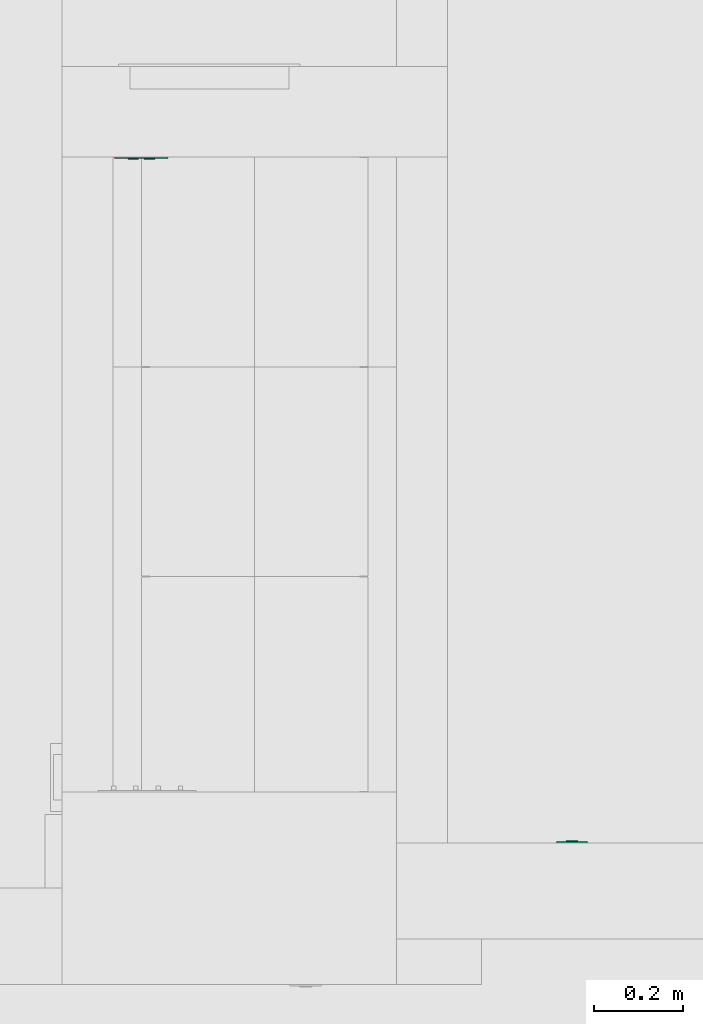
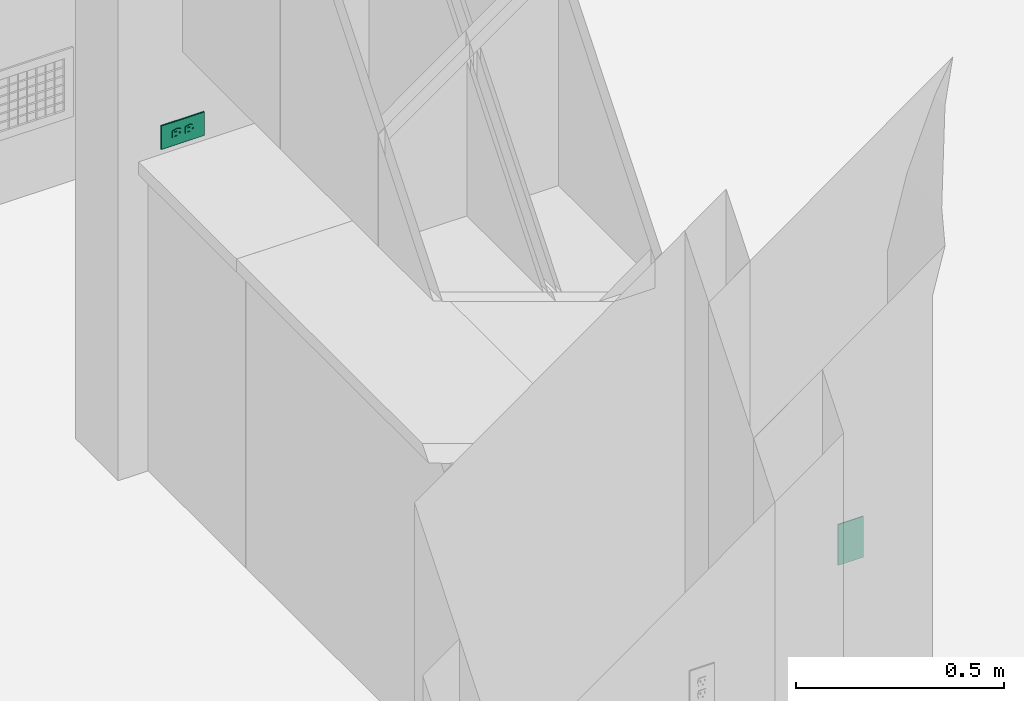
# One storey, part 18 of 103: 2 flow controllers.
"""IFC2X3 building model written with IfcOpenShell, lengths in inches."""

from ifc_helpers import new_model, entity, si_unit, converted_unit, derived_unit, money_unit, direction, frame, origin_with_axes, place, context, subcontext, project, spatial, faceted_brep, source, transform, mapped, type_object, element, save


model = new_model("IFC2X3")

# Units and contexts
model_context = context("Model", 3, precision=0.00039370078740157, world=origin_with_axes(), true_north=direction((0.0, 1.0)))
plan_context = context("Plan", 3, precision=0.00039370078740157, world=origin_with_axes(), true_north=direction((0.0, 1.0)))
body_context = subcontext(model_context, "Body", "Model", "MODEL_VIEW")
ifc_project = project(units=[converted_unit("LENGTHUNIT", "INCH", entity("IfcPositiveLengthMeasure", 0.0254), si_unit("LENGTHUNIT", "METRE"), dimensions=[1, 0, 0, 0, 0, 0, 0]), converted_unit("AREAUNIT", "SQUARE_FOOT", entity("IfcPositiveLengthMeasure", 0.09290304), si_unit("AREAUNIT", "SQUARE_METRE"), dimensions=[2, 0, 0, 0, 0, 0, 0]), si_unit("PLANEANGLEUNIT", "RADIAN"), si_unit("SOLIDANGLEUNIT", "STERADIAN"), money_unit("USD"), converted_unit("TIMEUNIT", "Year", entity("IfcTimeMeasure", 31557600.0), si_unit("TIMEUNIT", "SECOND"), dimensions=[0, 0, 1, 0, 0, 0, 0]), si_unit("MASSUNIT", "GRAM", prefix="KILO"), si_unit("THERMODYNAMICTEMPERATUREUNIT", "DEGREE_CELSIUS"), si_unit("LUMINOUSINTENSITYUNIT", "LUMEN"), si_unit("ENERGYUNIT", "JOULE", prefix="MEGA"), derived_unit("SPECIFICHEATCAPACITYUNIT", [(si_unit("ENERGYUNIT", "JOULE"), 1), (si_unit("MASSUNIT", "GRAM", prefix="KILO"), -1), (si_unit("THERMODYNAMICTEMPERATUREUNIT", "KELVIN"), -1)])], contexts=[model_context, plan_context])

# Site, building, storey
site_placement = place(None, origin_with_axes())
site = spatial("IfcSite", under=ifc_project, at=site_placement, Name="Site", CompositionType="ELEMENT")
building_placement = place(site_placement, origin_with_axes())
building = spatial("IfcBuilding", under=site, at=building_placement, Name="Building", CompositionType="ELEMENT")
storey_placement = place(building_placement, frame((0.0, 0.0, 127.9999999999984), z_axis=(0.0, 0.0, 1.0), x_axis=(1.0, 0.0, 0.0)))
storey = spatial("IfcBuildingStorey", under=building, at=storey_placement, Name="Second Floor", CompositionType="ELEMENT", Elevation=128.0)

# Flow controllers
switching_device_type = type_object("IfcSwitchingDeviceType", Name="Outlet 1 US", PredefinedType="NOTDEFINED")
shared_shape_1 = source(origin_with_axes(), body_context, "Body", "Brep", [
    faceted_brep([(0.39370078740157, -0.03444881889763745, -1.18110236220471), (0.5436477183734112, -0.03444881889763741, -0.7086614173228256), (0.5436477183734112, -0.2165354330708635, -0.7086614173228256), (0.39370078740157, -0.2165354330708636, -1.18110236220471), (-0.3937007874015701, -0.03444881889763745, -1.181102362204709), (-0.543647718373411, -0.03444881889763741, -0.7086614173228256), (-0.39370078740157, -0.03444881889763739, -0.2362204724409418), (0.3937007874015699, -0.03444881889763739, -0.2362204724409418), (-0.196850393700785, -0.03444881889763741, -0.7086614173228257), (-0.196850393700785, -0.0344488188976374, -0.4724409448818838), (-0.275590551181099, -0.0344488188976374, -0.4724409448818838), (-0.275590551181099, -0.03444881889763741, -0.7086614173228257), (0.196850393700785, -0.03444881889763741, -0.7086614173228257), (0.275590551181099, -0.03444881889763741, -0.7086614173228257), (0.275590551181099, -0.0344488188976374, -0.4724409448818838), (0.196850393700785, -0.0344488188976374, -0.4724409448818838), (-0.078740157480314, -0.03444881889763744, -1.102362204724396), (0.078740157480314, -0.03444881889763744, -1.102362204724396), (0.078740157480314, -0.03444881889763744, -1.023622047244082), (0.06819097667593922, -0.03444881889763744, -0.9842519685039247), (0.03937007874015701, -0.03444881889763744, -0.9554310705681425), (0.0, -0.03444881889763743, -0.9448818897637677), (-0.03937007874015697, -0.03444881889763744, -0.9554310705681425), (-0.06819097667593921, -0.03444881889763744, -0.9842519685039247), (-0.078740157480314, -0.03444881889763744, -1.023622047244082), (0.3937007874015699, -0.2165354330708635, -0.2362204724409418), (-0.39370078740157, -0.2165354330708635, -0.2362204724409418), (-0.543647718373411, -0.2165354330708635, -0.7086614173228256), (-0.3937007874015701, -0.2165354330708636, -1.181102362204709), (-0.196850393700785, -0.2165354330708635, -0.7086614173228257), (-0.275590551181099, -0.2165354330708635, -0.7086614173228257), (-0.275590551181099, -0.2165354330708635, -0.4724409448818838), (-0.196850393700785, -0.2165354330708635, -0.4724409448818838), (0.196850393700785, -0.2165354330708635, -0.7086614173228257), (0.196850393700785, -0.2165354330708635, -0.4724409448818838), (0.275590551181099, -0.2165354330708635, -0.4724409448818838), (0.275590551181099, -0.2165354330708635, -0.7086614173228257), (-0.078740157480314, -0.2165354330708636, -1.102362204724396), (-0.078740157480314, -0.2165354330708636, -1.023622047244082), (-0.06819097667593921, -0.2165354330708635, -0.9842519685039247), (-0.03937007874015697, -0.2165354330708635, -0.9554310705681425), (0.0, -0.2165354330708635, -0.9448818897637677), (0.03937007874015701, -0.2165354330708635, -0.9554310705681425), (0.06819097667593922, -0.2165354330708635, -0.9842519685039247), (0.078740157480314, -0.2165354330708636, -1.023622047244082), (0.078740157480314, -0.2165354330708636, -1.102362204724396)], [[[0, 1, 2, 3]], [[0, 4, 5, 6, 7, 1], [8, 9, 10, 11], [12, 13, 14, 15], [16, 17, 18, 19, 20, 21, 22, 23, 24]], [[1, 7, 25, 2]], [[3, 2, 25, 26, 27, 28], [29, 30, 31, 32], [33, 34, 35, 36], [37, 38, 39, 40, 41, 42, 43, 44, 45]], [[4, 0, 3, 28]], [[5, 4, 28, 27]], [[6, 5, 27, 26]], [[7, 6, 26, 25]], [[9, 8, 29, 32]], [[10, 9, 32, 31]], [[11, 10, 31, 30]], [[8, 11, 30, 29]], [[13, 12, 33, 36]], [[14, 13, 36, 35]], [[15, 14, 35, 34]], [[12, 15, 34, 33]], [[17, 16, 37, 45]], [[18, 17, 45, 44]], [[19, 18, 44, 43]], [[20, 19, 43, 42]], [[21, 20, 42, 41]], [[22, 21, 41, 40]], [[23, 22, 40, 39]], [[24, 23, 39, 38]], [[16, 24, 38, 37]]]),
    faceted_brep([(0.39370078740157, -0.03444881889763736, 0.2362204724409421), (0.5436477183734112, -0.03444881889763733, 0.7086614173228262), (0.5436477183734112, -0.2165354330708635, 0.7086614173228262), (0.39370078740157, -0.2165354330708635, 0.2362204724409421), (-0.3937007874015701, -0.03444881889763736, 0.2362204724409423), (-0.543647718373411, -0.03444881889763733, 0.7086614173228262), (-0.39370078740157, -0.0344488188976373, 1.18110236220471), (0.3937007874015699, -0.0344488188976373, 1.18110236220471), (-0.196850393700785, -0.03444881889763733, 0.7086614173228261), (-0.196850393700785, -0.03444881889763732, 0.944881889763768), (-0.275590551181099, -0.03444881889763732, 0.944881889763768), (-0.275590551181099, -0.03444881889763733, 0.7086614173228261), (0.196850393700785, -0.03444881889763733, 0.7086614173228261), (0.275590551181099, -0.03444881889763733, 0.7086614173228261), (0.275590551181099, -0.03444881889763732, 0.944881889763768), (0.196850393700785, -0.03444881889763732, 0.944881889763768), (-0.078740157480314, -0.03444881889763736, 0.3149606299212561), (0.078740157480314, -0.03444881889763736, 0.3149606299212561), (0.078740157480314, -0.03444881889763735, 0.3937007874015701), (0.06819097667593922, -0.03444881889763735, 0.4330708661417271), (0.03937007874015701, -0.03444881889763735, 0.4618917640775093), (0.0, -0.03444881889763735, 0.472440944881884), (-0.03937007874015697, -0.03444881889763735, 0.4618917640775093), (-0.06819097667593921, -0.03444881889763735, 0.4330708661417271), (-0.078740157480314, -0.03444881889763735, 0.3937007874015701), (0.3937007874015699, -0.2165354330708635, 1.18110236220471), (-0.39370078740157, -0.2165354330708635, 1.18110236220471), (-0.543647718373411, -0.2165354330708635, 0.7086614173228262), (-0.3937007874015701, -0.2165354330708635, 0.2362204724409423), (-0.196850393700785, -0.2165354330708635, 0.7086614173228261), (-0.275590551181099, -0.2165354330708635, 0.7086614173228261), (-0.275590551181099, -0.2165354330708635, 0.944881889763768), (-0.196850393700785, -0.2165354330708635, 0.944881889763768), (0.196850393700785, -0.2165354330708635, 0.7086614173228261), (0.196850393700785, -0.2165354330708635, 0.944881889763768), (0.275590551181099, -0.2165354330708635, 0.944881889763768), (0.275590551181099, -0.2165354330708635, 0.7086614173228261), (-0.078740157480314, -0.2165354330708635, 0.3149606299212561), (-0.078740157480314, -0.2165354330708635, 0.3937007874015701), (-0.06819097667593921, -0.2165354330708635, 0.4330708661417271), (-0.03937007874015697, -0.2165354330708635, 0.4618917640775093), (0.0, -0.2165354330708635, 0.472440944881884), (0.03937007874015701, -0.2165354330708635, 0.4618917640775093), (0.06819097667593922, -0.2165354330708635, 0.4330708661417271), (0.078740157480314, -0.2165354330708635, 0.3937007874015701), (0.078740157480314, -0.2165354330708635, 0.3149606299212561)], [[[0, 1, 2, 3]], [[0, 4, 5, 6, 7, 1], [8, 9, 10, 11], [12, 13, 14, 15], [16, 17, 18, 19, 20, 21, 22, 23, 24]], [[1, 7, 25, 2]], [[3, 2, 25, 26, 27, 28], [29, 30, 31, 32], [33, 34, 35, 36], [37, 38, 39, 40, 41, 42, 43, 44, 45]], [[4, 0, 3, 28]], [[5, 4, 28, 27]], [[6, 5, 27, 26]], [[7, 6, 26, 25]], [[9, 8, 29, 32]], [[10, 9, 32, 31]], [[11, 10, 31, 30]], [[8, 11, 30, 29]], [[13, 12, 33, 36]], [[14, 13, 36, 35]], [[15, 14, 35, 34]], [[12, 15, 34, 33]], [[17, 16, 37, 45]], [[18, 17, 45, 44]], [[19, 18, 44, 43]], [[20, 19, 43, 42]], [[21, 20, 42, 41]], [[22, 21, 41, 40]], [[23, 22, 40, 39]], [[24, 23, 39, 38]], [[16, 24, 38, 37]]]),
    faceted_brep([(-1.343503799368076, -0.1377952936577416, -2.327755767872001), (1.343503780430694, -0.1377952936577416, -2.327755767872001), (1.343503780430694, -0.1377952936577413, 2.327755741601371), (-1.343503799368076, -0.1377952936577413, 2.327755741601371), (0.39370078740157, -0.1377952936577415, -1.18110236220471), (-0.3937007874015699, -0.1377952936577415, -1.181102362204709), (-0.5436477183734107, -0.1377952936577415, -0.7086614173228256), (-0.39370078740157, -0.1377952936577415, -0.2362204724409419), (0.3937007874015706, -0.1377952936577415, -0.2362204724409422), (0.5436477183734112, -0.1377952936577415, -0.7086614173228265), (-0.39370078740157, -0.1377952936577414, 1.18110236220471), (0.3937007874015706, -0.1377952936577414, 1.18110236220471), (0.5436477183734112, -0.1377952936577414, 0.7086614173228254), (0.39370078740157, -0.1377952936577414, 0.236220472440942), (-0.3937007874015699, -0.1377952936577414, 0.2362204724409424), (-0.5436477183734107, -0.1377952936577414, 0.7086614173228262), (-1.352419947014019, -0.1366214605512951, -2.336671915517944), (1.352419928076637, -0.1366214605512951, -2.336671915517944), (1.352419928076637, -0.1366214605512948, 2.336671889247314), (-1.352419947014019, -0.1366214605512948, 2.336671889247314), (0.39370078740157, -0.03444881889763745, -1.18110236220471), (-0.3937007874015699, -0.03444881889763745, -1.181102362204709), (-0.5436477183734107, -0.03444881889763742, -0.7086614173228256), (-0.39370078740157, -0.03444881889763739, -0.2362204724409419), (0.3937007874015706, -0.03444881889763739, -0.2362204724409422), (0.5436477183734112, -0.03444881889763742, -0.7086614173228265), (-0.39370078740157, -0.0344488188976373, 1.18110236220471), (0.3937007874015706, -0.0344488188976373, 1.18110236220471), (0.5436477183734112, -0.03444881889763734, 0.7086614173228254), (0.39370078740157, -0.03444881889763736, 0.236220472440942), (-0.3937007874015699, -0.03444881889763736, 0.2362204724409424), (-0.5436477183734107, -0.03444881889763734, 0.7086614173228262), (-1.36786294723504, -0.1277054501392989, -2.352114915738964), (1.367862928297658, -0.1277054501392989, -2.352114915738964), (1.367862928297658, -0.1277054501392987, 2.352114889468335), (-1.36786294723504, -0.1277054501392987, 2.352114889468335), (-1.376778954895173, -0.1122624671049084, -2.361030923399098), (1.376778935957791, -0.1122624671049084, -2.361030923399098), (1.376778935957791, -0.1122624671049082, 2.361030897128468), (-1.376778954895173, -0.1122624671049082, 2.361030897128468), (-1.377952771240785, -0.1033464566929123, -2.362204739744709), (1.377952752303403, -0.1033464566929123, -2.362204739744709), (1.377952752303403, -0.103346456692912, 2.36220471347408), (-1.377952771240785, -0.103346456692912, 2.36220471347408), (-1.377952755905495, 0.0, -2.36220472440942), (1.377952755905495, 0.0, -2.36220472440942), (1.377952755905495, 0.0, 2.36220472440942), (-1.377952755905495, 0.0, 2.36220472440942)], [[[0, 1, 2, 3], [4, 5, 6, 7, 8, 9], [10, 11, 12, 13, 14, 15]], [[1, 0, 16, 17]], [[2, 1, 17, 18]], [[3, 2, 18, 19]], [[0, 3, 19, 16]], [[4, 20, 21, 5]], [[5, 21, 22, 6]], [[6, 22, 23, 7]], [[7, 23, 24, 8]], [[8, 24, 25, 9]], [[9, 25, 20, 4]], [[11, 10, 26, 27]], [[12, 11, 27, 28]], [[13, 12, 28, 29]], [[14, 13, 29, 30]], [[15, 14, 30, 31]], [[10, 15, 31, 26]], [[17, 16, 32, 33]], [[18, 17, 33, 34]], [[19, 18, 34, 35]], [[16, 19, 35, 32]], [[22, 21, 20, 25, 24, 23]], [[28, 27, 26, 31, 30, 29]], [[33, 32, 36, 37]], [[34, 33, 37, 38]], [[35, 34, 38, 39]], [[32, 35, 39, 36]], [[37, 36, 40, 41]], [[38, 37, 41, 42]], [[39, 38, 42, 43]], [[36, 39, 43, 40]], [[41, 40, 44, 45]], [[42, 41, 45, 46]], [[43, 42, 46, 47]], [[40, 43, 47, 44]], [[46, 45, 44, 47]]]),
])
flow_controller_1_placement = place(storey_placement, frame((254.4999999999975, 200.9999999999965, 13.99999999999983), z_axis=(0.0, 0.0, 1.0), x_axis=(-1.0, 0.0, 0.0)))
element("IfcFlowController", 1, at=flow_controller_1_placement, inside=storey, type_object=switching_device_type, Name="FU - 029", context=body_context, shape_type="MappedRepresentation", body=[
    mapped(shared_shape_1, transform((0.0, 0.0, 0.0))),
])
shared_shape_2 = source(origin_with_axes(), body_context, "Body", "Brep", [
    faceted_brep([(1.18110236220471, -0.03444881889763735, 0.3937007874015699), (0.708661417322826, -0.03444881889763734, 0.5436477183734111), (0.708661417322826, -0.2165354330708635, 0.5436477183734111), (1.18110236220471, -0.2165354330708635, 0.3937007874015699), (1.18110236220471, -0.0344488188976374, -0.3937007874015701), (0.708661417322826, -0.03444881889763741, -0.543647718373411), (0.2362204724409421, -0.0344488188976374, -0.3937007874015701), (0.2362204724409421, -0.03444881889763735, 0.3937007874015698), (0.7086614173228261, -0.03444881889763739, -0.196850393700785), (0.472440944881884, -0.03444881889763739, -0.196850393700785), (0.472440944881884, -0.03444881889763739, -0.275590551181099), (0.7086614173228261, -0.03444881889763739, -0.275590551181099), (0.7086614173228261, -0.03444881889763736, 0.196850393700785), (0.7086614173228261, -0.03444881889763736, 0.275590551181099), (0.472440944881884, -0.03444881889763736, 0.275590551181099), (0.472440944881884, -0.03444881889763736, 0.196850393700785), (1.102362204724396, -0.03444881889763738, -0.07874015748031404), (1.102362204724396, -0.03444881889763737, 0.07874015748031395), (1.023622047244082, -0.03444881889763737, 0.07874015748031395), (0.984251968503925, -0.03444881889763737, 0.06819097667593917), (0.9554310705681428, -0.03444881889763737, 0.03937007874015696), (0.944881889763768, -0.03444881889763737, 0.0), (0.9554310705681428, -0.03444881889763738, -0.03937007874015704), (0.984251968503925, -0.03444881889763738, -0.06819097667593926), (1.023622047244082, -0.03444881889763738, -0.07874015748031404), (0.2362204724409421, -0.2165354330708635, 0.3937007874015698), (0.2362204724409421, -0.2165354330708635, -0.3937007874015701), (0.708661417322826, -0.2165354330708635, -0.543647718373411), (1.18110236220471, -0.2165354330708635, -0.3937007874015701), (0.7086614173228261, -0.2165354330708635, -0.196850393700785), (0.7086614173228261, -0.2165354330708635, -0.275590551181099), (0.472440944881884, -0.2165354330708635, -0.275590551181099), (0.472440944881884, -0.2165354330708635, -0.196850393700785), (0.7086614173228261, -0.2165354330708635, 0.196850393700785), (0.472440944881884, -0.2165354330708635, 0.196850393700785), (0.472440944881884, -0.2165354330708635, 0.275590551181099), (0.7086614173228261, -0.2165354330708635, 0.275590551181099), (1.102362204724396, -0.2165354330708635, -0.07874015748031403), (1.023622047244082, -0.2165354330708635, -0.07874015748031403), (0.984251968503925, -0.2165354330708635, -0.06819097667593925), (0.9554310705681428, -0.2165354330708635, -0.03937007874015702), (0.944881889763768, -0.2165354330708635, 0.0), (0.9554310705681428, -0.2165354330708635, 0.03937007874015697), (0.984251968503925, -0.2165354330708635, 0.06819097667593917), (1.023622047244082, -0.2165354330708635, 0.07874015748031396), (1.102362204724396, -0.2165354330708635, 0.07874015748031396)], [[[0, 1, 2, 3]], [[0, 4, 5, 6, 7, 1], [8, 9, 10, 11], [12, 13, 14, 15], [16, 17, 18, 19, 20, 21, 22, 23, 24]], [[1, 7, 25, 2]], [[3, 2, 25, 26, 27, 28], [29, 30, 31, 32], [33, 34, 35, 36], [37, 38, 39, 40, 41, 42, 43, 44, 45]], [[4, 0, 3, 28]], [[5, 4, 28, 27]], [[6, 5, 27, 26]], [[7, 6, 26, 25]], [[9, 8, 29, 32]], [[10, 9, 32, 31]], [[11, 10, 31, 30]], [[8, 11, 30, 29]], [[13, 12, 33, 36]], [[14, 13, 36, 35]], [[15, 14, 35, 34]], [[12, 15, 34, 33]], [[17, 16, 37, 45]], [[18, 17, 45, 44]], [[19, 18, 44, 43]], [[20, 19, 43, 42]], [[21, 20, 42, 41]], [[22, 21, 41, 40]], [[23, 22, 40, 39]], [[24, 23, 39, 38]], [[16, 24, 38, 37]]]),
    faceted_brep([(-0.2362204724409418, -0.03444881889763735, 0.3937007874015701), (-0.708661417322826, -0.03444881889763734, 0.5436477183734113), (-0.708661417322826, -0.2165354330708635, 0.5436477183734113), (-0.2362204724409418, -0.2165354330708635, 0.3937007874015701), (-0.2362204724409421, -0.0344488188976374, -0.39370078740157), (-0.708661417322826, -0.03444881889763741, -0.5436477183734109), (-1.18110236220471, -0.0344488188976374, -0.3937007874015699), (-1.18110236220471, -0.03444881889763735, 0.39370078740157), (-0.7086614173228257, -0.03444881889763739, -0.196850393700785), (-0.9448818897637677, -0.03444881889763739, -0.196850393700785), (-0.9448818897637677, -0.03444881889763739, -0.275590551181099), (-0.7086614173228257, -0.03444881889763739, -0.275590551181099), (-0.7086614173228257, -0.03444881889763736, 0.196850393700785), (-0.7086614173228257, -0.03444881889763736, 0.275590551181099), (-0.9448818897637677, -0.03444881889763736, 0.275590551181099), (-0.9448818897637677, -0.03444881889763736, 0.196850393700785), (-0.3149606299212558, -0.03444881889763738, -0.07874015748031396), (-0.3149606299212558, -0.03444881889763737, 0.07874015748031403), (-0.3937007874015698, -0.03444881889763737, 0.07874015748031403), (-0.4330708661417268, -0.03444881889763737, 0.06819097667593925), (-0.461891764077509, -0.03444881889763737, 0.03937007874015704), (-0.4724409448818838, -0.03444881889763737, 0.0), (-0.461891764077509, -0.03444881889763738, -0.03937007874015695), (-0.4330708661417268, -0.03444881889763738, -0.06819097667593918), (-0.3937007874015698, -0.03444881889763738, -0.07874015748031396), (-1.18110236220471, -0.2165354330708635, 0.39370078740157), (-1.18110236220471, -0.2165354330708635, -0.3937007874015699), (-0.708661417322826, -0.2165354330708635, -0.5436477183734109), (-0.2362204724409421, -0.2165354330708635, -0.39370078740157), (-0.7086614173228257, -0.2165354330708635, -0.196850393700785), (-0.7086614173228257, -0.2165354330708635, -0.275590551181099), (-0.9448818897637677, -0.2165354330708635, -0.275590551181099), (-0.9448818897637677, -0.2165354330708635, -0.196850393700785), (-0.7086614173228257, -0.2165354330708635, 0.196850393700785), (-0.9448818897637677, -0.2165354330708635, 0.196850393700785), (-0.9448818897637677, -0.2165354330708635, 0.275590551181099), (-0.7086614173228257, -0.2165354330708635, 0.275590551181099), (-0.3149606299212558, -0.2165354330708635, -0.07874015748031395), (-0.3937007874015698, -0.2165354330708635, -0.07874015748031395), (-0.4330708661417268, -0.2165354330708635, -0.06819097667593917), (-0.461891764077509, -0.2165354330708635, -0.03937007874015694), (-0.4724409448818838, -0.2165354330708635, 0.0), (-0.461891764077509, -0.2165354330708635, 0.03937007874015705), (-0.4330708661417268, -0.2165354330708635, 0.06819097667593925), (-0.3937007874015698, -0.2165354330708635, 0.07874015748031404), (-0.3149606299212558, -0.2165354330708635, 0.07874015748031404)], [[[0, 1, 2, 3]], [[0, 4, 5, 6, 7, 1], [8, 9, 10, 11], [12, 13, 14, 15], [16, 17, 18, 19, 20, 21, 22, 23, 24]], [[1, 7, 25, 2]], [[3, 2, 25, 26, 27, 28], [29, 30, 31, 32], [33, 34, 35, 36], [37, 38, 39, 40, 41, 42, 43, 44, 45]], [[4, 0, 3, 28]], [[5, 4, 28, 27]], [[6, 5, 27, 26]], [[7, 6, 26, 25]], [[9, 8, 29, 32]], [[10, 9, 32, 31]], [[11, 10, 31, 30]], [[8, 11, 30, 29]], [[13, 12, 33, 36]], [[14, 13, 36, 35]], [[15, 14, 35, 34]], [[12, 15, 34, 33]], [[17, 16, 37, 45]], [[18, 17, 45, 44]], [[19, 18, 44, 43]], [[20, 19, 43, 42]], [[21, 20, 42, 41]], [[22, 21, 41, 40]], [[23, 22, 40, 39]], [[24, 23, 39, 38]], [[16, 24, 38, 37]]]),
    faceted_brep([(2.327755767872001, -0.1377952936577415, -1.343503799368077), (2.327755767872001, -0.1377952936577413, 1.343503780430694), (-2.32775574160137, -0.1377952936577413, 1.343503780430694), (-2.32775574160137, -0.1377952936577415, -1.343503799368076), (1.18110236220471, -0.1377952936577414, -0.39370078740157), (0.708661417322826, -0.1377952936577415, -0.5436477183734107), (0.2362204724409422, -0.1377952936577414, -0.39370078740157), (0.2362204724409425, -0.1377952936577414, 0.3937007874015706), (0.7086614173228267, -0.1377952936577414, 0.5436477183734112), (1.18110236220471, -0.1377952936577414, 0.3937007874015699), (-1.181102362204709, -0.1377952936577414, 0.3937007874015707), (-0.7086614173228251, -0.1377952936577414, 0.5436477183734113), (-0.2362204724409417, -0.1377952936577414, 0.39370078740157), (-0.2362204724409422, -0.1377952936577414, -0.3937007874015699), (-0.708661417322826, -0.1377952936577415, -0.5436477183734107), (-1.18110236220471, -0.1377952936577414, -0.3937007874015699), (2.336671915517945, -0.1366214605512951, -1.352419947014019), (2.336671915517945, -0.1366214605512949, 1.352419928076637), (-2.336671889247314, -0.1366214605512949, 1.352419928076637), (-2.336671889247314, -0.1366214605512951, -1.352419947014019), (1.18110236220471, -0.0344488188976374, -0.39370078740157), (0.708661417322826, -0.0344488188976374, -0.5436477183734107), (0.2362204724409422, -0.0344488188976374, -0.39370078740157), (0.2362204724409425, -0.03444881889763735, 0.3937007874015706), (0.7086614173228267, -0.03444881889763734, 0.5436477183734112), (1.18110236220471, -0.03444881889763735, 0.3937007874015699), (-1.181102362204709, -0.03444881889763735, 0.3937007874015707), (-0.7086614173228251, -0.03444881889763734, 0.5436477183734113), (-0.2362204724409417, -0.03444881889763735, 0.39370078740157), (-0.2362204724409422, -0.0344488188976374, -0.3937007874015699), (-0.708661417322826, -0.0344488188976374, -0.5436477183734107), (-1.18110236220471, -0.0344488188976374, -0.3937007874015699), (2.352114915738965, -0.1277054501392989, -1.36786294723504), (2.352114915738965, -0.1277054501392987, 1.367862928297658), (-2.352114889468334, -0.1277054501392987, 1.367862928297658), (-2.352114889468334, -0.1277054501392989, -1.367862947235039), (2.361030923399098, -0.1122624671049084, -1.376778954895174), (2.361030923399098, -0.1122624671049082, 1.376778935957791), (-2.361030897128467, -0.1122624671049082, 1.376778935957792), (-2.361030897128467, -0.1122624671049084, -1.376778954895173), (2.36220473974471, -0.1033464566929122, -1.377952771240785), (2.36220473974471, -0.103346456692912, 1.377952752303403), (-2.362204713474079, -0.103346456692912, 1.377952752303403), (-2.362204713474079, -0.1033464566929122, -1.377952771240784), (2.36220472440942, 0.0, -1.377952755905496), (2.36220472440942, 0.0, 1.377952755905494), (-2.36220472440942, 0.0, 1.377952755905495), (-2.36220472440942, 0.0, -1.377952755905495)], [[[0, 1, 2, 3], [4, 5, 6, 7, 8, 9], [10, 11, 12, 13, 14, 15]], [[1, 0, 16, 17]], [[2, 1, 17, 18]], [[3, 2, 18, 19]], [[0, 3, 19, 16]], [[4, 20, 21, 5]], [[5, 21, 22, 6]], [[6, 22, 23, 7]], [[7, 23, 24, 8]], [[8, 24, 25, 9]], [[9, 25, 20, 4]], [[11, 10, 26, 27]], [[12, 11, 27, 28]], [[13, 12, 28, 29]], [[14, 13, 29, 30]], [[15, 14, 30, 31]], [[10, 15, 31, 26]], [[17, 16, 32, 33]], [[18, 17, 33, 34]], [[19, 18, 34, 35]], [[16, 19, 35, 32]], [[21, 20, 25, 24, 23, 22]], [[27, 26, 31, 30, 29, 28]], [[33, 32, 36, 37]], [[34, 33, 37, 38]], [[35, 34, 38, 39]], [[32, 35, 39, 36]], [[37, 36, 40, 41]], [[38, 37, 41, 42]], [[39, 38, 42, 43]], [[36, 39, 43, 40]], [[41, 40, 44, 45]], [[42, 41, 45, 46]], [[43, 42, 46, 47]], [[40, 43, 47, 44]], [[46, 45, 44, 47]]]),
])
flow_controller_2_placement = place(storey_placement, frame((216.4999999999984, 261.5028415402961, 37.99999999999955), z_axis=(0.0, 0.0, 1.0), x_axis=(1.0, 0.0, 0.0)))
element("IfcFlowController", 2, at=flow_controller_2_placement, inside=storey, type_object=switching_device_type, Name="FU - 029", context=body_context, shape_type="MappedRepresentation", body=[
    mapped(shared_shape_2, transform((0.0, 0.0, 0.0))),
])

save(model, "model.ifc")
